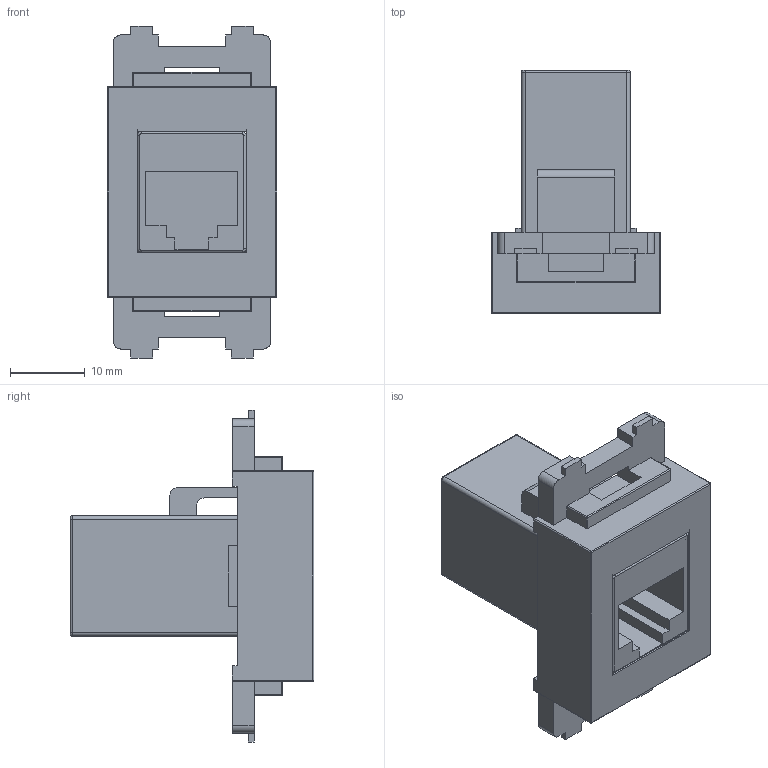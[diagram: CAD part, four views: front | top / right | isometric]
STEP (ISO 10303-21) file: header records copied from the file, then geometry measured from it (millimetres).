
FILE_DESCRIPTION(('FreeCAD Model'),'2;1');
FILE_NAME('Open CASCADE Shape Model','2026-05-11T14:53:17',(''),(''), 'Open CASCADE STEP processor 7.8','FreeCAD','Unknown');
FILE_SCHEMA(('AUTOMOTIVE_DESIGN { 1 0 10303 214 1 1 1 1 }'));
Length unit declared in the file: millimetre
Products named in the file (3): CC_C6_BK_KV; SY-NWT-KV-xx; FA-396-8-C6-BK
Assembly tree (2 placements, depth 2):
  CC_C6_BK_KV
    SY-NWT-KV-xx
    FA-396-8-C6-BK
Bounding box: 22.65 x 32.5 x 44.3 mm (x, y, z)
Volume: 9331.2 mm3; surface area: 8106.3 mm2
Topology: 2 solids, 2 shells, 207 faces, 562 edges, 358 vertices
Faces by surface type: bspline 128, plane 57, cylinder 14, revolution 8
Entity records: 8008 total; most frequent: CARTESIAN_POINT 3859, ORIENTED_EDGE 1116, EDGE_CURVE 558, DIRECTION 389, B_SPLINE_CURVE_WITH_KNOTS 369, VERTEX_POINT 358, FACE_BOUND 216, EDGE_LOOP 216
